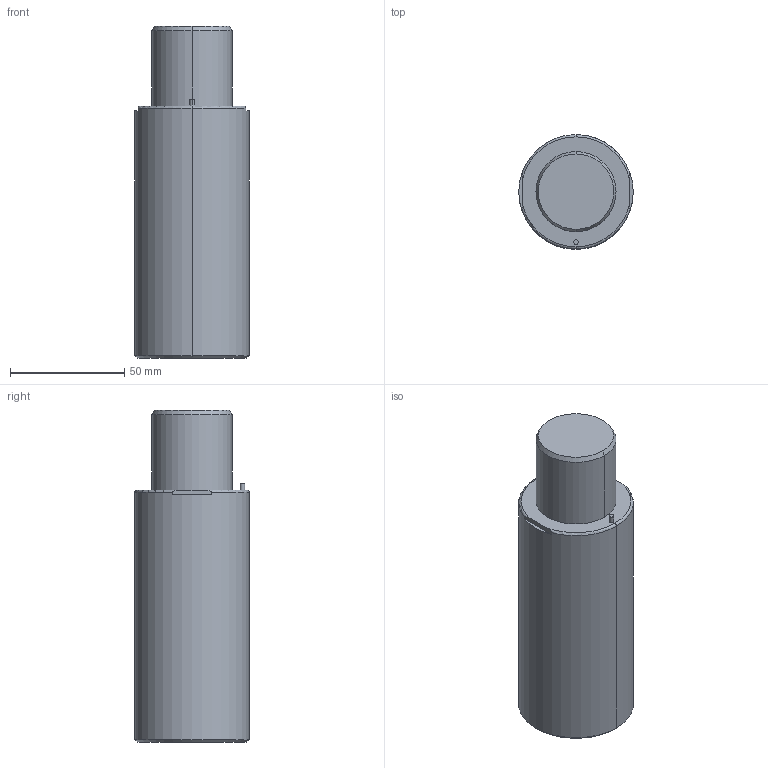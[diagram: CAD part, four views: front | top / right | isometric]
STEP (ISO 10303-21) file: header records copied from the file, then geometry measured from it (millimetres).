
FILE_DESCRIPTION(/* description */ (''),/* implementation_level */ '2;1');
FILE_NAME(/* name */ '3d_gsx50-32_03983_r00.stp',/* time_stamp */ '2011-01-10T14:15:12+09:00',/* author */ ('MISUMI'),/* organization */ (''),/* preprocessor_version */ 'ST-DEVELOPER v11',/* originating_system */ 'UGS - NX 5.0',/* authorisation */ '');
FILE_SCHEMA (('CONFIG_CONTROL_DESIGN'));
Length unit declared in the file: millimetre
Products named in the file (1): 3d_gsx50-32_03983_r00
Bounding box: 50 x 50 x 145 mm (x, y, z)
Volume: 246098.3 mm3; surface area: 26522.4 mm2
Topology: 1 solids, 1 shells, 59 faces, 130 edges, 78 vertices
Faces by surface type: cylinder 28, plane 15, cone 12, torus 4
Entity records: 1724 total; most frequent: CARTESIAN_POINT 320, DIRECTION 308, ORIENTED_EDGE 244, AXIS2_PLACEMENT_3D 130, EDGE_CURVE 122, VERTEX_POINT 78, EDGE_LOOP 72, CIRCLE 70
